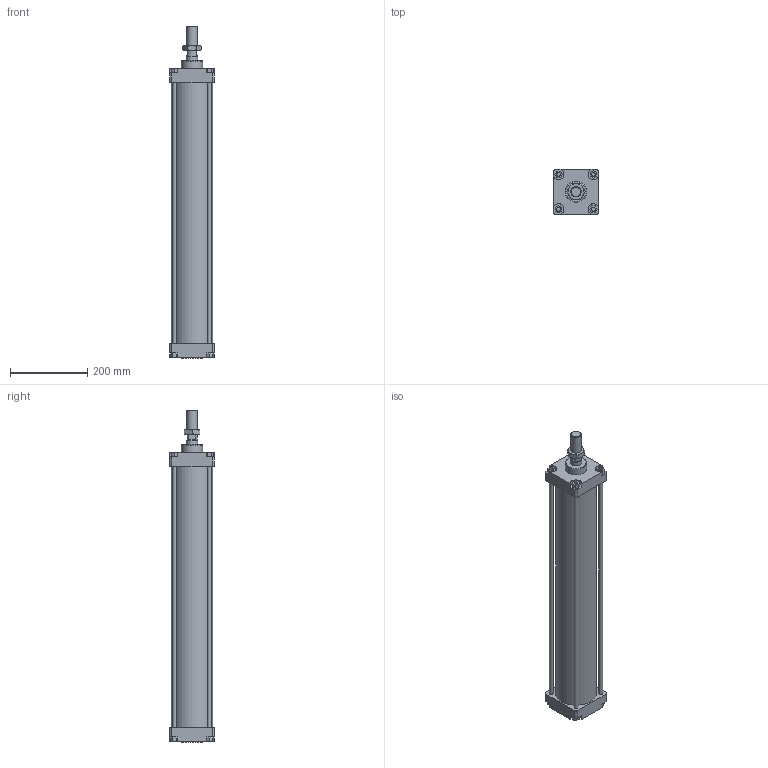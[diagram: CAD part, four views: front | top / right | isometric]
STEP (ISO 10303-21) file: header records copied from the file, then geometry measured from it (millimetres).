
FILE_DESCRIPTION(/* description */ (''),/* implementation_level */ '2;1');
FILE_NAME(/* name */ 'I:\Area Tecnica\Disegni\VARIE-3D\Componenti\CSP\Ø100\130#_100_####_###\1303_100_0600_01A.stp',/* time_stamp */ '2016-11-24T14:05:30+01:00',/* author */ ('Maniean1'),/* organization */ ('Pneumax S.p.A.'),/* preprocessor_version */ 'ST-DEVELOPER v15.2',/* originating_system */ 'Autodesk Inventor 2014',/* authorisation */ '');
FILE_SCHEMA (('AUTOMOTIVE_DESIGN { 1 0 10303 214 3 1 1 }'));
Length unit declared in the file: millimetre
Products named in the file (6): C_130#_100_0600; Testata anteriore_100; Testata posteriore_100; S_1303_100_0600_01A; 1300_100_18F; 1303_100_0600_01A
Bounding box: 115 x 115 x 857 mm (x, y, z)
Volume: 2829923.3 mm3; surface area: 749152.6 mm2
Topology: 9 solids, 9 shells, 162 faces, 380 edges, 249 vertices
Faces by surface type: plane 105, cylinder 42, cone 15
Full cylindrical faces by diameter (mm): 10 x12, 19 x2, 21.8 x1, 24.835 x1, 27 x1, 28 x1, 30 x3, 55 x2, 100 x2, 106 x1
Entity records: 4530 total; most frequent: CARTESIAN_POINT 785, DIRECTION 764, ORIENTED_EDGE 672, EDGE_CURVE 336, AXIS2_PLACEMENT_3D 271, VERTEX_POINT 244, EDGE_LOOP 236, LINE 222
